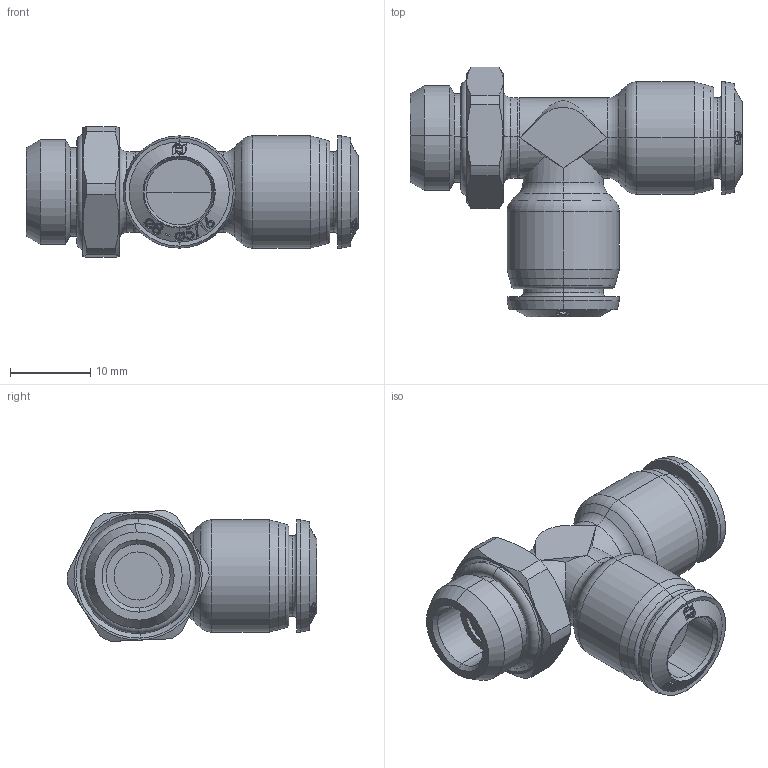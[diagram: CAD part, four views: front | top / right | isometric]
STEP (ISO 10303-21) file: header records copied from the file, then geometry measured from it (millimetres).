
FILE_DESCRIPTION (( 'STEP AP214' ), '1' );
FILE_NAME ('55226000018.step', '2012-10-02T17:43:13', ( '' ), ( '' ), 'SwSTEP 2.0', 'SolidWorks 2012', '' );
FILE_SCHEMA (( 'AUTOMOTIVE_DESIGN' ));
Length unit declared in the file: millimetre
Products named in the file (1): 55226000018
Bounding box: 41.4 x 31.15 x 16.32 mm (x, y, z)
Volume: 6759 mm3; surface area: 4057.6 mm2
Topology: 2 solids, 4 shells, 441 faces, 1098 edges, 697 vertices
Faces by surface type: bspline 222, cone 106, cylinder 43, torus 36, plane 34
Entity records: 29310 total; most frequent: CARTESIAN_POINT 15901, ORIENTED_EDGE 2192, EDGE_CURVE 1096, DIRECTION 1018, B_SPLINE_CURVE_WITH_KNOTS 728, VERTEX_POINT 697, EDGE_LOOP 481, UNCERTAINTY_MEASURE_WITH_UNIT 445
